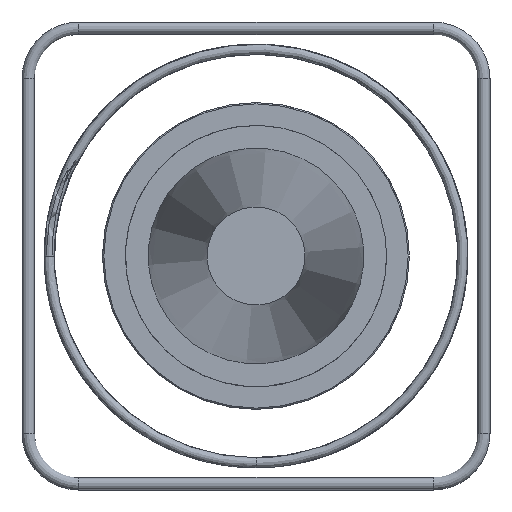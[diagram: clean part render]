
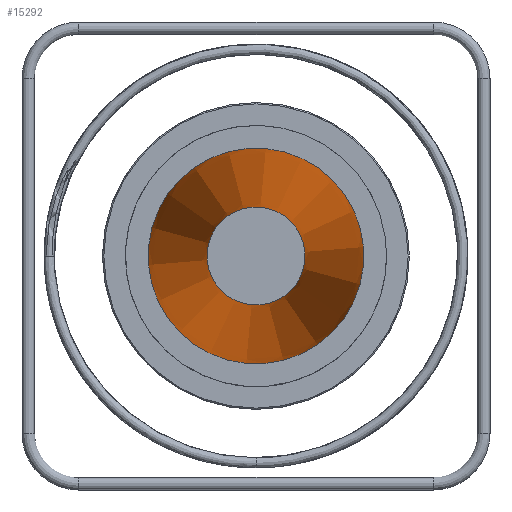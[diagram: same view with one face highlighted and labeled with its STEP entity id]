
A CAD part, left-side view. The second image highlights one B-rep face of the part: STEP entity #15292.
In plain terms, the highlighted conical face has half-angle 1.999 degrees and reference radius 124 mm.
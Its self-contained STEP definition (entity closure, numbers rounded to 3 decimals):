
#15=CONICAL_SURFACE('',#16198,124.,1.999);
#3627=FACE_BOUND('',#5448,.T.);
#4467=FACE_OUTER_BOUND('',#5447,.T.);
#5447=EDGE_LOOP('',(#13724));
#5448=EDGE_LOOP('',(#13725));
#5998=CIRCLE('',#16197,170.5);
#5999=CIRCLE('',#16199,77.5);
#7459=VERTEX_POINT('',#32465);
#7460=VERTEX_POINT('',#32468);
#9596=EDGE_CURVE('',#7459,#7459,#5998,.T.);
#9597=EDGE_CURVE('',#7460,#7460,#5999,.T.);
#13724=ORIENTED_EDGE('',*,*,#9597,.F.);
#13725=ORIENTED_EDGE('',*,*,#9596,.T.);
#15292=ADVANCED_FACE('',(#4467,#3627),#15,.T.);
#16197=AXIS2_PLACEMENT_3D('',#32466,#18868,#18869);
#16198=AXIS2_PLACEMENT_3D('',#32467,#18870,#18871);
#16199=AXIS2_PLACEMENT_3D('',#32469,#18872,#18873);
#18868=DIRECTION('center_axis',(-1.,0.,0.));
#18869=DIRECTION('ref_axis',(0.,-0.577,0.817));
#18870=DIRECTION('center_axis',(1.,0.,0.));
#18871=DIRECTION('ref_axis',(0.,-0.817,-0.577));
#18872=DIRECTION('center_axis',(-1.,0.,0.));
#18873=DIRECTION('ref_axis',(0.,-0.577,0.817));
#32465=CARTESIAN_POINT('',(-735.,-139.25,-98.385));
#32466=CARTESIAN_POINT('Origin',(-735.,0.,0.));
#32467=CARTESIAN_POINT('Origin',(-2067.,0.,0.));
#32468=CARTESIAN_POINT('',(-3399.,-63.296,-44.721));
#32469=CARTESIAN_POINT('Origin',(-3399.,0.,0.));
